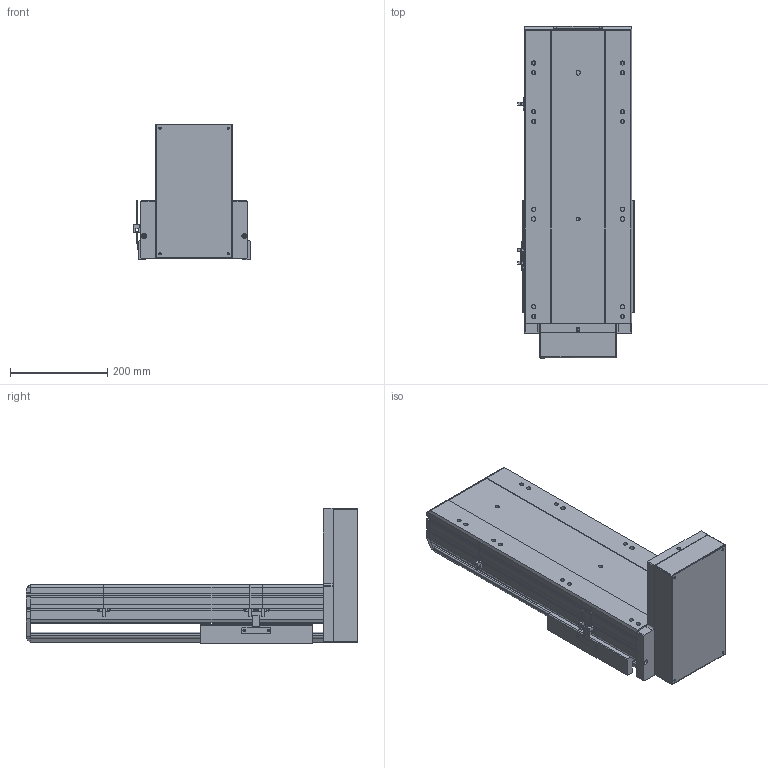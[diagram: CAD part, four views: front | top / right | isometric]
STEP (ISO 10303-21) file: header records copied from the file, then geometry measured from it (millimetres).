
FILE_DESCRIPTION (( 'STEP AP203' ), '1' );
FILE_NAME ('BTH22-L05-300-BM-PCD145-M6-95.STEP', '2022-05-08T07:49:50', ( 'CXY' ), ( 'BT' ), 'SwSTEP 2.0', 'SolidWorks 2016', '' );
FILE_SCHEMA (( 'CONFIG_CONTROL_DESIGN' ));
Length unit declared in the file: millimetre
Products named in the file (7): BTH22-BM-06-M100; BTH22-L05-300-BM-PCD145-M6-95; BTH22-BM-04; BTH22-BM-01; H130-PCD145; BTH22-BM-菁釱; BTH22-BM-HZ
Assembly tree (8 placements, depth 2):
  BTH22-L05-300-BM-PCD145-M6-95
    BTH22-BM-菁釱
    BTH22-BM-01
    BTH22-BM-04  x3
    BTH22-BM-HZ
    BTH22-BM-06-M100
    H130-PCD145
Bounding box: 238.7 x 681 x 279 mm (x, y, z)
Volume: 8937839.9 mm3; surface area: 1348409.6 mm2
Topology: 10 solids, 10 shells, 1042 faces, 2889 edges, 1879 vertices
Faces by surface type: plane 547, cylinder 379, bspline 74, cone 42
Entity records: 115516 total; most frequent: CARTESIAN_POINT 52568, ORIENTED_EDGE 13413, DIRECTION 11844, EDGE_CURVE 7212, VERTEX_POINT 4692, AXIS2_PLACEMENT_3D 4393, LINE 3058, VECTOR 3058
